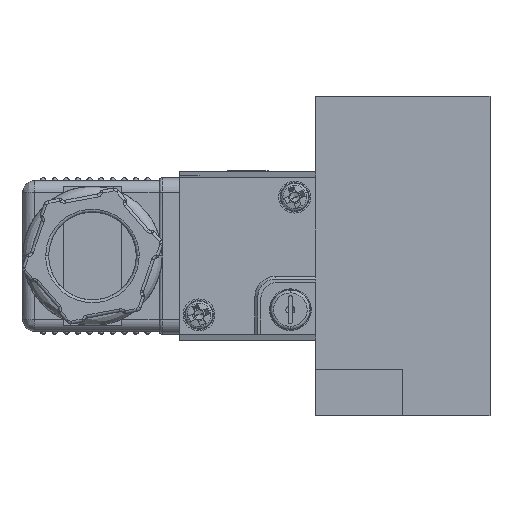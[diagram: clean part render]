
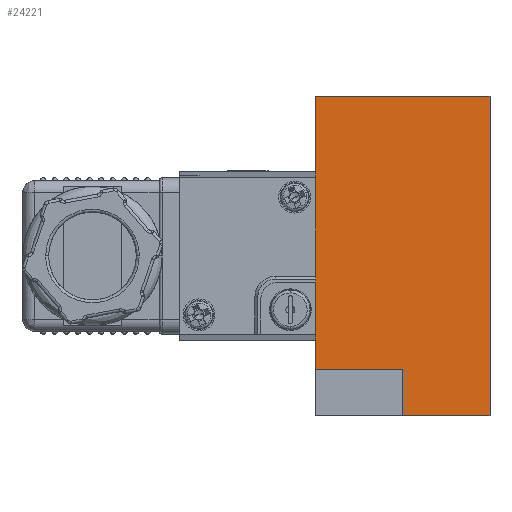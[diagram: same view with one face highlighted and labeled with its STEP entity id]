
A CAD part, left-side view. The second image highlights one B-rep face of the part: STEP entity #24221.
In plain terms, the highlighted planar face has unit normal (-1, 0, 0).
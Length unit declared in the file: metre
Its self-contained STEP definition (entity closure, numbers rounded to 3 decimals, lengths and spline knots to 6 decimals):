
#402 = CARTESIAN_POINT ( 'NONE',  ( -0.034, 0.015, 0.0275 ) ) ;
#494 = VECTOR ( 'NONE', #13849, 1. ) ;
#2559 = DIRECTION ( 'NONE',  ( 0., 0., -1. ) ) ;
#2785 = EDGE_CURVE ( 'NONE', #3669, #7942, #14506, .T. ) ;
#3669 = VERTEX_POINT ( 'NONE', #9972 ) ;
#3971 = CARTESIAN_POINT ( 'NONE',  ( -0.034, -0.015, 0.0275 ) ) ;
#4063 = ORIENTED_EDGE ( 'NONE', *, *, #15511, .T. ) ;
#4280 = CARTESIAN_POINT ( 'NONE',  ( -0.034, -0.015, 0.0275 ) ) ;
#4367 = DIRECTION ( 'NONE',  ( 0., 0., -1. ) ) ;
#5308 = CARTESIAN_POINT ( 'NONE',  ( -0.034, 0., -0.0275 ) ) ;
#6891 = EDGE_LOOP ( 'NONE', ( #11465, #24687, #11221, #12246, #10890, #4063 ) ) ;
#7203 = VERTEX_POINT ( 'NONE', #402 ) ;
#7942 = VERTEX_POINT ( 'NONE', #11985 ) ;
#7951 = DIRECTION ( 'NONE',  ( 0., 0., 1. ) ) ;
#8216 = VECTOR ( 'NONE', #14241, 1. ) ;
#8340 = EDGE_CURVE ( 'NONE', #14271, #17164, #14860, .T. ) ;
#8817 = VECTOR ( 'NONE', #7951, 1. ) ;
#9439 = DIRECTION ( 'NONE',  ( 0., 0., -1. ) ) ;
#9658 = CARTESIAN_POINT ( 'NONE',  ( -0.034, -0.015, -0.0275 ) ) ;
#9972 = CARTESIAN_POINT ( 'NONE',  ( -0.034, 0., -0.0195 ) ) ;
#10890 = ORIENTED_EDGE ( 'NONE', *, *, #20916, .T. ) ;
#11221 = ORIENTED_EDGE ( 'NONE', *, *, #19278, .F. ) ;
#11465 = ORIENTED_EDGE ( 'NONE', *, *, #2785, .F. ) ;
#11852 = CARTESIAN_POINT ( 'NONE',  ( -0.034, 0., 0.0275 ) ) ;
#11985 = CARTESIAN_POINT ( 'NONE',  ( -0.034, 0.015, -0.0195 ) ) ;
#12018 = EDGE_CURVE ( 'NONE', #18716, #3669, #19444, .T. ) ;
#12222 = CARTESIAN_POINT ( 'NONE',  ( -0.034, 0., -0.0275 ) ) ;
#12246 = ORIENTED_EDGE ( 'NONE', *, *, #8340, .F. ) ;
#12388 = CARTESIAN_POINT ( 'NONE',  ( -0.034, -0.015, 0. ) ) ;
#12649 = VECTOR ( 'NONE', #9439, 1. ) ;
#13621 = FACE_OUTER_BOUND ( 'NONE', #6891, .T. ) ;
#13849 = DIRECTION ( 'NONE',  ( 0., 1., 0. ) ) ;
#14236 = PLANE ( 'NONE',  #16149 ) ;
#14241 = DIRECTION ( 'NONE',  ( 0., 1., 0. ) ) ;
#14271 = VERTEX_POINT ( 'NONE', #3971 ) ;
#14506 = LINE ( 'NONE', #18236, #25553 ) ;
#14860 = LINE ( 'NONE', #12388, #18974 ) ;
#15511 = EDGE_CURVE ( 'NONE', #7203, #7942, #23196, .T. ) ;
#16149 = AXIS2_PLACEMENT_3D ( 'NONE', #4280, #16263, #4367 ) ;
#16263 = DIRECTION ( 'NONE',  ( 1., 0., 0. ) ) ;
#16280 = LINE ( 'NONE', #11852, #494 ) ;
#17164 = VERTEX_POINT ( 'NONE', #9658 ) ;
#18236 = CARTESIAN_POINT ( 'NONE',  ( -0.034, 0., -0.0195 ) ) ;
#18462 = DIRECTION ( 'NONE',  ( 0., 1., 0. ) ) ;
#18716 = VERTEX_POINT ( 'NONE', #5308 ) ;
#18888 = LINE ( 'NONE', #12222, #8216 ) ;
#18974 = VECTOR ( 'NONE', #2559, 1. ) ;
#19278 = EDGE_CURVE ( 'NONE', #17164, #18716, #18888, .T. ) ;
#19444 = LINE ( 'NONE', #19905, #8817 ) ;
#19905 = CARTESIAN_POINT ( 'NONE',  ( -0.034, 0., 0. ) ) ;
#20916 = EDGE_CURVE ( 'NONE', #14271, #7203, #16280, .T. ) ;
#23196 = LINE ( 'NONE', #23279, #12649 ) ;
#23279 = CARTESIAN_POINT ( 'NONE',  ( -0.034, 0.015, 0. ) ) ;
#24221 = ADVANCED_FACE ( 'NONE', ( #13621 ), #14236, .F. ) ;
#24687 = ORIENTED_EDGE ( 'NONE', *, *, #12018, .F. ) ;
#25553 = VECTOR ( 'NONE', #18462, 1. ) ;
